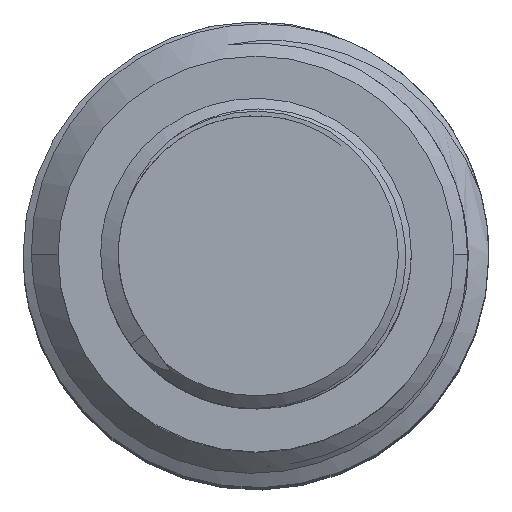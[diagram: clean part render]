
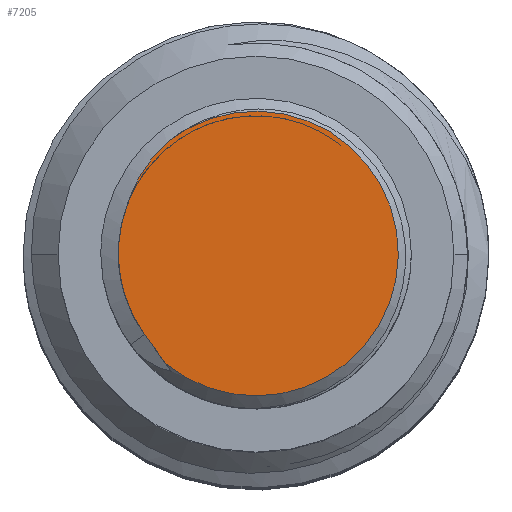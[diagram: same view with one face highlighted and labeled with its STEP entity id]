
A CAD part, top view. The second image highlights one B-rep face of the part: STEP entity #7205.
In plain terms, the highlighted planar face has unit normal (0, 0, 1).
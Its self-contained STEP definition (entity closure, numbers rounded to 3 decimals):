
#49 = DIRECTION ( 'NONE',  ( 0., 0., 1. ) ) ;
#144 = DIRECTION ( 'NONE',  ( 0., 0., 1. ) ) ;
#233 = CARTESIAN_POINT ( 'NONE',  ( -2.073, -6.203, 13. ) ) ;
#447 = CARTESIAN_POINT ( 'NONE',  ( -5.313, -0.402, 13. ) ) ;
#462 = CARTESIAN_POINT ( 'NONE',  ( -3.384, 4.336, 13. ) ) ;
#470 = CARTESIAN_POINT ( 'NONE',  ( -3.384, 4.336, 13. ) ) ;
#502 = CARTESIAN_POINT ( 'NONE',  ( -3.494, -4.247, 13. ) ) ;
#831 = CARTESIAN_POINT ( 'NONE',  ( -4.307, -3.129, 13. ) ) ;
#1238 = CARTESIAN_POINT ( 'NONE',  ( -4.05, 3.666, 13. ) ) ;
#1268 = CARTESIAN_POINT ( 'NONE',  ( -4.307, -3.129, 13. ) ) ;
#1676 = LINE ( 'NONE', #233, #8504 ) ;
#1890 = ORIENTED_EDGE ( 'NONE', *, *, #5378, .F. ) ;
#2046 = CARTESIAN_POINT ( 'NONE',  ( -4.441, -2.944, 13. ) ) ;
#2160 = EDGE_CURVE ( 'NONE', #8324, #5771, #8282, .T. ) ;
#2213 = CARTESIAN_POINT ( 'NONE',  ( -5.304, 0.503, 13. ) ) ;
#2310 = DIRECTION ( 'NONE',  ( -0.588, 0.809, 0. ) ) ;
#2673 = AXIS2_PLACEMENT_3D ( 'NONE', #3560, #144, #9435 ) ;
#2976 = CARTESIAN_POINT ( 'NONE',  ( -4.876, -2.148, 13. ) ) ;
#3061 = CARTESIAN_POINT ( 'NONE',  ( -4.562, 2.897, 13. ) ) ;
#3560 = CARTESIAN_POINT ( 'NONE',  ( 0., 0., 13. ) ) ;
#4019 = PLANE ( 'NONE',  #7090 ) ;
#4113 = B_SPLINE_CURVE_WITH_KNOTS ( 'NONE', 3,
 ( #7880, #9753, #7991, #2213, #6283, #5340, #447, #9630, #5566, #2976, #6400, #4574, #2046, #1268 ),
 .UNSPECIFIED., .F., .F.,
 ( 4, 2, 2, 2, 2, 2, 4 ),
 ( 0., 0.001, 0.002, 0.003, 0.004, 0.005, 0.005 ),
 .UNSPECIFIED. ) ;
#4276 = EDGE_CURVE ( 'NONE', #5771, #9218, #10670, .T. ) ;
#4574 = CARTESIAN_POINT ( 'NONE',  ( -4.562, -2.753, 13. ) ) ;
#5340 = CARTESIAN_POINT ( 'NONE',  ( -5.325, -0.173, 13. ) ) ;
#5378 = EDGE_CURVE ( 'NONE', #8324, #8640, #1676, .T. ) ;
#5566 = CARTESIAN_POINT ( 'NONE',  ( -5.124, -1.513, 13. ) ) ;
#5771 = VERTEX_POINT ( 'NONE', #462 ) ;
#5919 = ORIENTED_EDGE ( 'NONE', *, *, #4276, .T. ) ;
#6191 = EDGE_LOOP ( 'NONE', ( #1890, #8149, #5919, #10581 ) ) ;
#6283 = CARTESIAN_POINT ( 'NONE',  ( -5.321, 0.279, 13. ) ) ;
#6400 = CARTESIAN_POINT ( 'NONE',  ( -4.78, -2.355, 13. ) ) ;
#6428 = CARTESIAN_POINT ( 'NONE',  ( -4.918, 2.037, 13. ) ) ;
#7090 = AXIS2_PLACEMENT_3D ( 'NONE', #9125, #49, #9073 ) ;
#7205 = ADVANCED_FACE ( 'NONE', ( #7382 ), #4019, .T. ) ;
#7382 = FACE_OUTER_BOUND ( 'NONE', #6191, .T. ) ;
#7483 = CARTESIAN_POINT ( 'NONE',  ( -4.918, 2.037, 13. ) ) ;
#7880 = CARTESIAN_POINT ( 'NONE',  ( -4.918, 2.037, 13. ) ) ;
#7905 = CARTESIAN_POINT ( 'NONE',  ( -3.736, 4.023, 13. ) ) ;
#7991 = CARTESIAN_POINT ( 'NONE',  ( -5.212, 1.172, 13. ) ) ;
#8149 = ORIENTED_EDGE ( 'NONE', *, *, #2160, .T. ) ;
#8282 = CIRCLE ( 'NONE', #2673, 5.5 ) ;
#8324 = VERTEX_POINT ( 'NONE', #502 ) ;
#8349 = EDGE_CURVE ( 'NONE', #9218, #8640, #4113, .T. ) ;
#8504 = VECTOR ( 'NONE', #2310, 1000. ) ;
#8640 = VERTEX_POINT ( 'NONE', #831 ) ;
#8836 = CARTESIAN_POINT ( 'NONE',  ( -4.767, 2.483, 13. ) ) ;
#9073 = DIRECTION ( 'NONE',  ( 1., 0., 0. ) ) ;
#9125 = CARTESIAN_POINT ( 'NONE',  ( 0., 0., 13. ) ) ;
#9218 = VERTEX_POINT ( 'NONE', #7483 ) ;
#9435 = DIRECTION ( 'NONE',  ( -1., 0., 0. ) ) ;
#9630 = CARTESIAN_POINT ( 'NONE',  ( -5.233, -1.076, 13. ) ) ;
#9753 = CARTESIAN_POINT ( 'NONE',  ( -5.093, 1.616, 13. ) ) ;
#10581 = ORIENTED_EDGE ( 'NONE', *, *, #8349, .T. ) ;
#10670 = B_SPLINE_CURVE_WITH_KNOTS ( 'NONE', 3,
 ( #470, #7905, #1238, #3061, #8836, #6428 ),
 .UNSPECIFIED., .F., .F.,
 ( 4, 2, 4 ),
 ( 0.003, 0.004, 0.005 ),
 .UNSPECIFIED. ) ;
